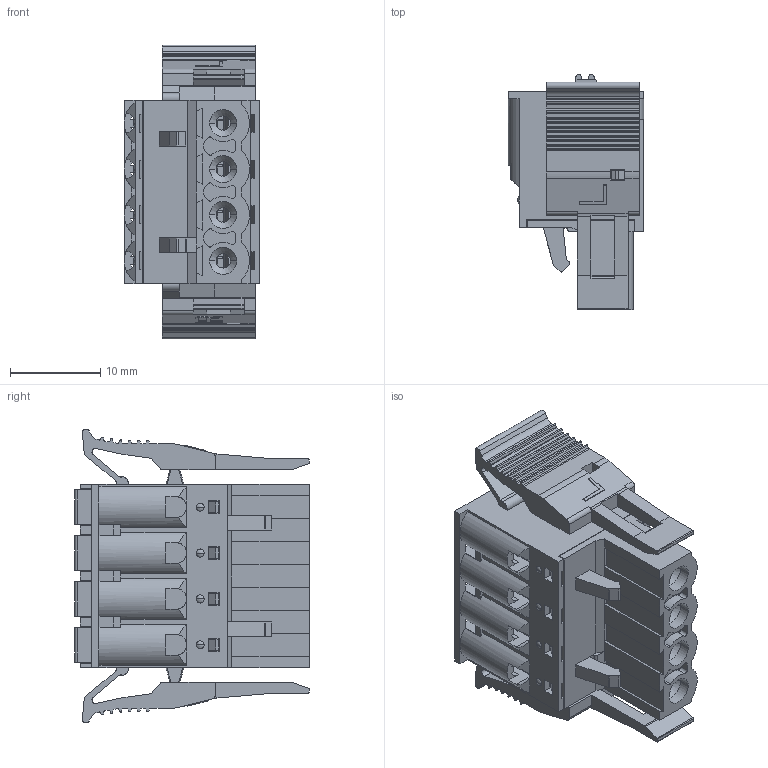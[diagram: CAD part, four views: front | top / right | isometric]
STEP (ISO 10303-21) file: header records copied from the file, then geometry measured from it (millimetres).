
FILE_DESCRIPTION((''),'2;1');
FILE_NAME('PRT0001','2020-06-18T',('renkang.li'),(''),'CREO PARAMETRIC BY PTC INC, 2016260','CREO PARAMETRIC BY PTC INC, 2016260','');
FILE_SCHEMA(('CONFIG_CONTROL_DESIGN'));
Length unit declared in the file: millimetre
Products named in the file (1): PRT0001
Bounding box: 15 x 26.01 x 32.52 mm (x, y, z)
Volume: 3748.1 mm3; surface area: 9097.8 mm2
Topology: 1 solids, 1 shells, 1539 faces, 4596 edges, 2998 vertices
Faces by surface type: plane 1108, cylinder 379, sphere 24, bspline 20, cone 8
Entity records: 52416 total; most frequent: CARTESIAN_POINT 10325, ORIENTED_EDGE 9144, DIRECTION 8452, EDGE_CURVE 4572, VECTOR 3550, LINE 3550, VERTEX_POINT 2998, AXIS2_PLACEMENT_3D 2451
